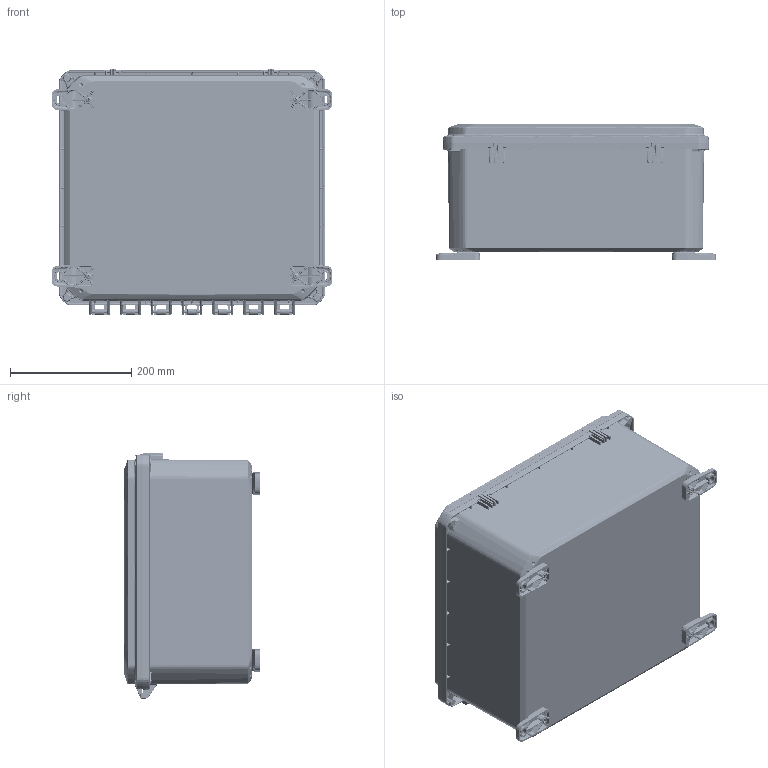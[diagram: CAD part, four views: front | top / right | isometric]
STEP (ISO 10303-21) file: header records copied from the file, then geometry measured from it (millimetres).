
FILE_DESCRIPTION (( 'STEP AP214' ), '1' );
FILE_NAME ('ZH-161407-07.STEP', '2024-06-17T12:01:55', ( '' ), ( '' ), 'SwSTEP 2.0', 'SolidWorks 2024', '' );
FILE_SCHEMA (( 'AUTOMOTIVE_DESIGN' ));
Length unit declared in the file: inch
Products named in the file (10): ZH-01F_ZH-01F-01; ZH-161407-07; INSERTS-4; Z_-16147BI_ZH-16147BI-01; LABEL-104; Z_-16141CG_ZH-16141CG-02; Z_-16141C_ZH-16141C-02; Z_-16147B_ZH-16147B-01; ZH-1614G; SCREWS-046_SCREWS-046
Assembly tree (30 placements, depth 3):
  ZH-161407-07
    Z_-16147BI_ZH-16147BI-01
      Z_-16147B_ZH-16147B-01
      INSERTS-4  x12
      LABEL-104
    Z_-16141CG_ZH-16141CG-02
      Z_-16141C_ZH-16141C-02
      ZH-1614G
    SCREWS-046_SCREWS-046  x8
    ZH-01F_ZH-01F-01  x4
Bounding box: 462.39 x 222.33 x 406.27 mm (x, y, z)
Volume: 3196290.1 mm3; surface area: 1498802.1 mm2
Topology: 28 solids, 28 shells, 9575 faces, 23383 edges, 13826 vertices
Faces by surface type: bspline 2640, cylinder 2167, plane 1850, cone 1768, torus 948, sphere 202
Entity records: 315054 total; most frequent: CARTESIAN_POINT 186644, ORIENTED_EDGE 29414, DIRECTION 24151, EDGE_CURVE 14707, AXIS2_PLACEMENT_3D 9941, VERTEX_POINT 8606, EDGE_LOOP 6463, FACE_OUTER_BOUND 6267
